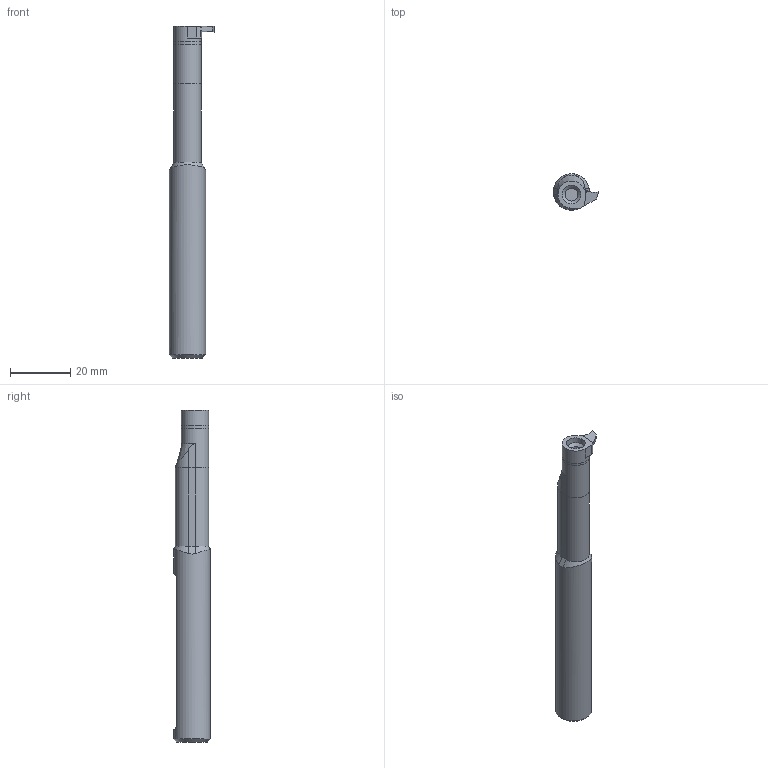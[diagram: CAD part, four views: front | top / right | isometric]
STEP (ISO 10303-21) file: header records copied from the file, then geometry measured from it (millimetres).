
FILE_DESCRIPTION(/* description */ (''),/* implementation_level */ '2;1');
FILE_NAME(/* name */ 'NFTIH14212C-HAAS.stp',/* time_stamp */ '2021-09-17T11:26:05+09:00',/* author */ (''),/* organization */ (''),/* preprocessor_version */ 'ST-DEVELOPER v16.7',/* originating_system */ 'SIEMENS PLM Software NX 1946',/* authorisation */ '');
FILE_SCHEMA (('AUTOMOTIVE_DESIGN { 1 0 10303 214 3 1 1 1 }'));
Length unit declared in the file: millimetre
Products named in the file (1): user17E0F477jwmd
Bounding box: 15 x 12 x 110.22 mm (x, y, z)
Volume: 10464.2 mm3; surface area: 4413.8 mm2
Topology: 3 solids, 3 shells, 46 faces, 109 edges, 70 vertices
Faces by surface type: plane 29, cylinder 12, cone 5
Full cylindrical faces by diameter (mm): 4.3 x1, 6.2 x1, 9 x2, 12 x1
Entity records: 1339 total; most frequent: CARTESIAN_POINT 254, DIRECTION 222, ORIENTED_EDGE 198, EDGE_CURVE 99, AXIS2_PLACEMENT_3D 81, VERTEX_POINT 67, LINE 60, VECTOR 60
